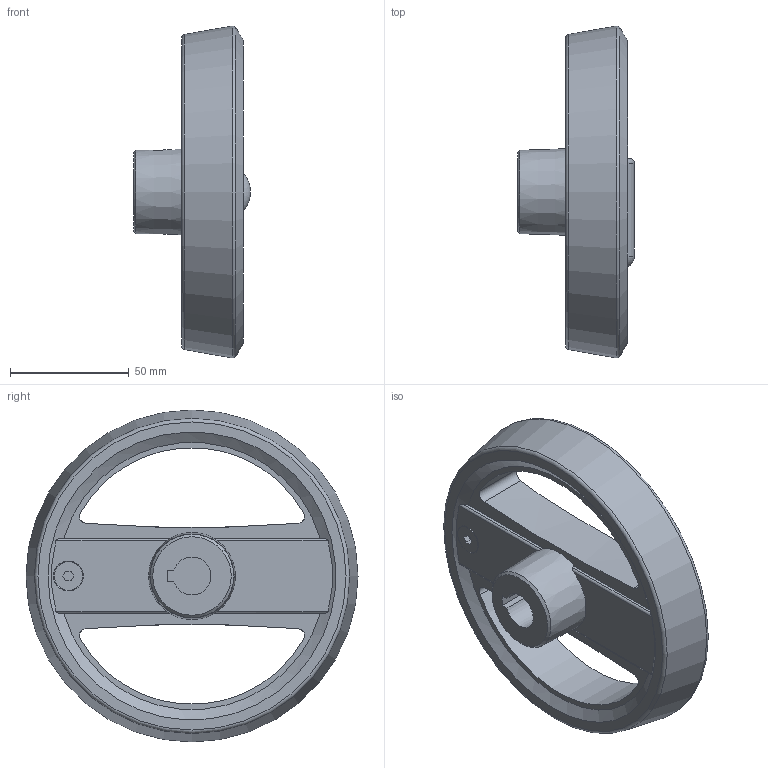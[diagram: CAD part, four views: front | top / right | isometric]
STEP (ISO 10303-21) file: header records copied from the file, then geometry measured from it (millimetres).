
FILE_DESCRIPTION( ( 'STEP AP203' ), '1' );
FILE_NAME( 'C:/Temp/Ganter_Step_05_03_2020/data/1_3/gn_924_3/gn_924_3_b/Handwheel with retractable handle GN 924.3-140-B16-R-SR (unactivated).stp', '2020-03-05T10:40:51', ( 'License CC BY-ND 4.0' ), ( 'CADENAS' ), ' ', 'PARTsolutions', ' ' );
FILE_SCHEMA( ( 'CONFIG_CONTROL_DESIGN' ) );
Length unit declared in the file: millimetre
Products named in the file (3): Handwheel with retractable handle GN 924.3-140-B16-R-SR (unactivated); _Umleggriff-Handrad GN 924.3-140-B16-R-SR-1; _Umleggriff-Handrad GN 924.3-140-B16-R-SR-2
Assembly tree (2 placements, depth 2):
  Handwheel with retractable handle GN 924.3-140-B16-R-SR (unactivated)
    _Umleggriff-Handrad GN 924.3-140-B16-R-SR-1
    _Umleggriff-Handrad GN 924.3-140-B16-R-SR-2
Bounding box: 49.2 x 139.68 x 139.68 mm (x, y, z)
Volume: 221816.1 mm3; surface area: 56414.4 mm2
Topology: 2 solids, 2 shells, 104 faces, 264 edges, 169 vertices
Faces by surface type: plane 49, cylinder 36, cone 10, torus 7, sphere 2
Full cylindrical faces by diameter (mm): 4 x4, 5 x1, 10 x1, 12 x1, 18.5 x1, 20 x1, 24 x1, 25 x1, 25.6 x1
Entity records: 3383 total; most frequent: CARTESIAN_POINT 930, DIRECTION 486, ORIENTED_EDGE 448, EDGE_CURVE 224, AXIS2_PLACEMENT_3D 193, VERTEX_POINT 162, EDGE_LOOP 147, FACE_OUTER_BOUND 123
